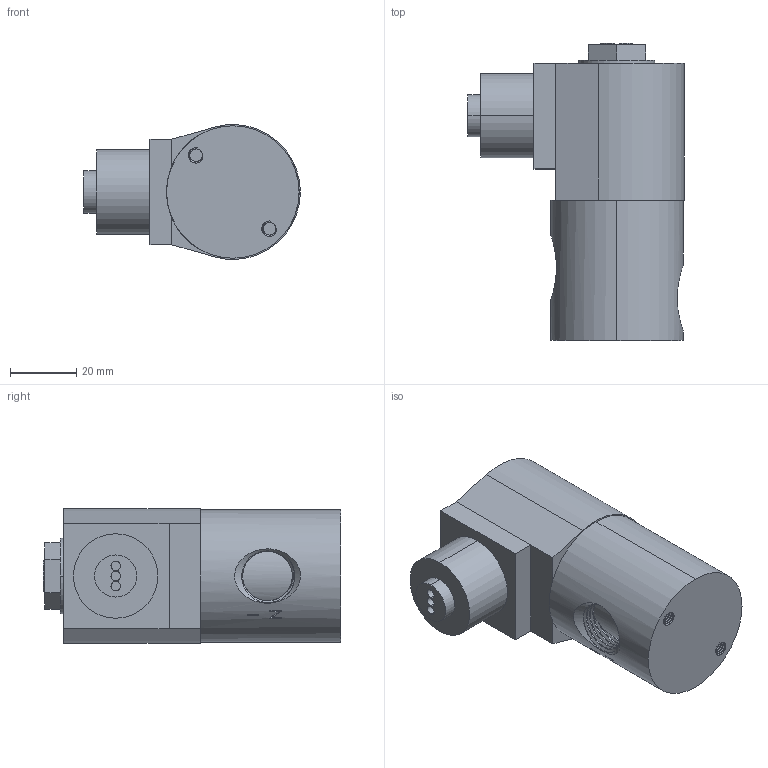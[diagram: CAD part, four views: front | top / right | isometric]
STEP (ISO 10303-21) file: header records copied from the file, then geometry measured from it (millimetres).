
FILE_DESCRIPTION (( 'STEP AP203' ), '1' );
FILE_NAME ('S301G_3C.STEP', '2021-01-12T20:58:54', ( '' ), ( '' ), 'SwSTEP 2.0', 'SolidWorks 2020', '' );
FILE_SCHEMA (( 'CONFIG_CONTROL_DESIGN' ));
Length unit declared in the file: inch
Products named in the file (1): S301G_3C
Bounding box: 65.23 x 89.41 x 40.57 mm (x, y, z)
Volume: 120708 mm3; surface area: 18465 mm2
Topology: 1 solids, 1 shells, 241 faces, 734 edges, 488 vertices
Faces by surface type: cylinder 92, bspline 90, plane 53, cone 6
Entity records: 21094 total; most frequent: CARTESIAN_POINT 15504, ORIENTED_EDGE 1468, DIRECTION 749, EDGE_CURVE 734, VERTEX_POINT 488, EDGE_LOOP 258, LINE 253, B_SPLINE_CURVE_WITH_KNOTS 253
